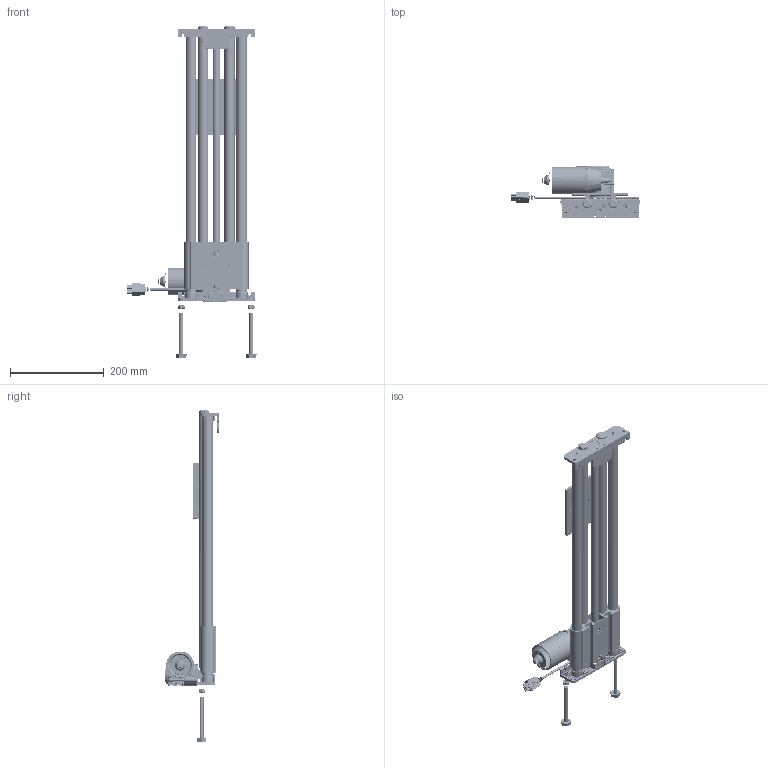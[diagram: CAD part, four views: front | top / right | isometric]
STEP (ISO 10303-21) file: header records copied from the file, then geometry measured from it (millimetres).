
FILE_DESCRIPTION(/* description */ (''),/* implementation_level */ '2;1');
FILE_NAME(/* name */ '4701_00-V05H0430-eingefahren.stp',/* time_stamp */ '2024-01-11T07:59:59+01:00',/* author */ ('Weber_H'),/* organization */ (''),/* preprocessor_version */ 'ST-DEVELOPER v19.2',/* originating_system */ 'Autodesk Inventor 2023',/* authorisation */ '');
FILE_SCHEMA (('CONFIG_CONTROL_DESIGN'));
Length unit declared in the file: millimetre
Products named in the file (1): Bauteil7
Bounding box: 275.36 x 113.3 x 708.1 mm (x, y, z)
Volume: 1225573.8 mm3; surface area: 741422.8 mm2
Topology: 8 solids, 88 shells, 7875 faces, 19985 edges, 11387 vertices
Faces by surface type: cylinder 3297, plane 2835, sphere 967, torus 402, cone 228, bspline 146
Full cylindrical faces by diameter (mm): 1.5 x2, 2 x4, 2.6 x8, 2.8 x2, 3.1 x6, 3.464 x2, 3.7 x1, 3.82 x1, 4 x28, 4.134 x5, 4.2 x17, 4.25 x2, 4.567 x2, 4.773 x4, 4.99 x1, 5 x16, 5.1 x2, 5.3 x2, 5.5 x1, 6 x13, 6.08 x1, 6.2 x4, 6.647 x2, 6.8 x2, 7 x6, 7.5 x3, 7.99 x2, 8 x15, 8.2 x2, 8.5 x3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
Entity records: 263223 total; most frequent: CARTESIAN_POINT 69355, DIRECTION 41245, ORIENTED_EDGE 37968, EDGE_CURVE 18984, AXIS2_PLACEMENT_3D 15718, VERTEX_POINT 11387, LINE 9809, VECTOR 9809
